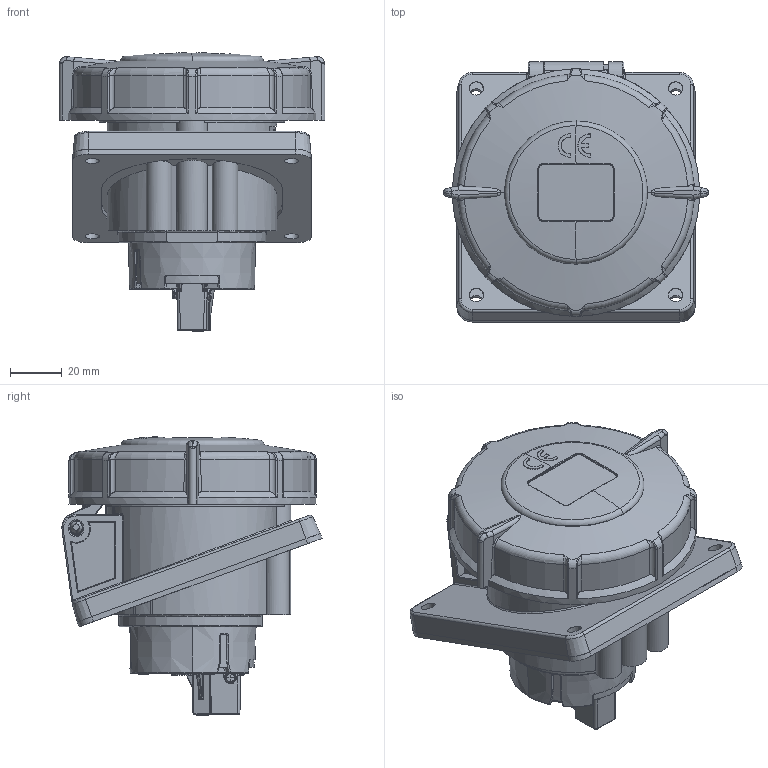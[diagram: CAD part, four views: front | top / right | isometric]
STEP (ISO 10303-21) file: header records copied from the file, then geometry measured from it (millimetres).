
FILE_DESCRIPTION((''),'2;1');
FILE_NAME('1102203_ASM_SW0001','2017-10-27T',('gisse'),('MENNEKES'),'PRO/ENGINEER BY PARAMETRIC TECHNOLOGY CORPORATION, 2015440','PRO/ENGINEER BY PARAMETRIC TECHNOLOGY CORPORATION, 2015440','');
FILE_SCHEMA(('AUTOMOTIVE_DESIGN { 1 0 10303 214 1 1 1 1 }'));
Products named in the file (1): 1102203_ASM_SW0001
Bounding box: 102.6 x 100.47 x 107.63 mm (x, y, z)
Volume: 408513.6 mm3; surface area: 56059.7 mm2
Topology: 1 solids, 1 shells, 2019 faces, 5400 edges, 3441 vertices
Faces by surface type: plane 1260, cylinder 324, bspline 263, torus 73, cone 57, sphere 38, extrusion 4
Entity records: 99393 total; most frequent: CARTESIAN_POINT 28376, ORIENTED_EDGE 10786, DIRECTION 8291, EDGE_CURVE 5393, FILL_AREA_STYLE_COLOUR 3915, FILL_AREA_STYLE 3915, SURFACE_STYLE_FILL_AREA 3915, SURFACE_SIDE_STYLE 3915
